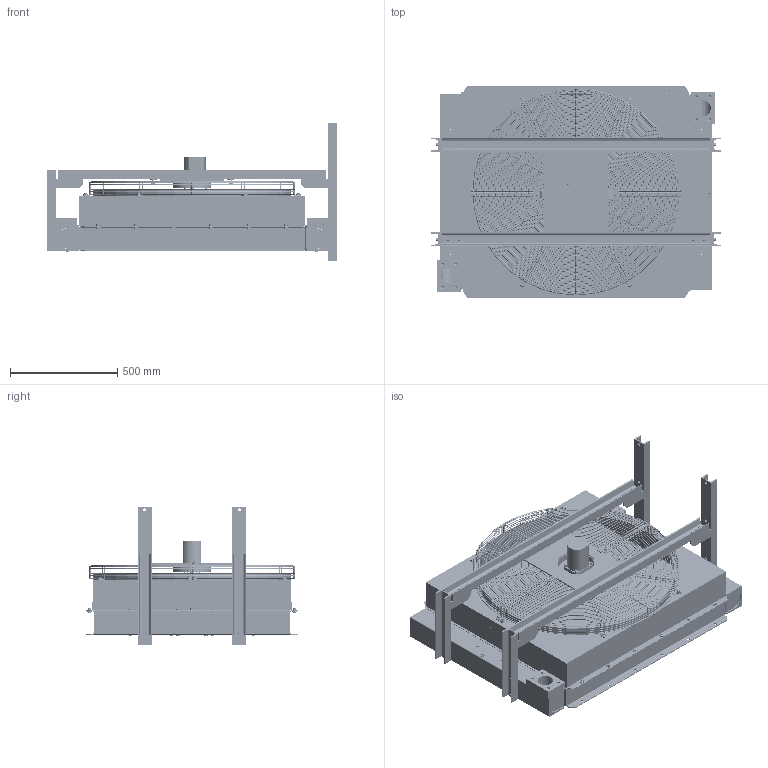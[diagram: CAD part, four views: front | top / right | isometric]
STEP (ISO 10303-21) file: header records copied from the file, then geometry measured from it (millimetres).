
FILE_DESCRIPTION((' '),'1');
FILE_NAME('5210_204_0000.step','2007-09-28 T',(' '),(' '),'STEP Interface v1.0 by CT CoreTechnologie','3D_Evolution v1.0 by CT CoreTechnologie',' ');
FILE_SCHEMA(('AUTOMOTIVE_DESIGN_CC2 { 1 2 10303 214 -1 1 5 2 }'));
Length unit declared in the file: millimetre
Products named in the file (232): 5210_204_0000; Sechskantschraube_ISO_4017-M8x30-8_8-A3B; 603804; 8407_470_0059; 5209_203_0009; 5210_204_5000; Motorplatte_rund; Motorring; Motorplatte; 6030041; 6030042; 6030043; 6030044; 6030045; 6030046; 6030047; 6030048; 603504; 6038281; 6038282; 6038283; 6038284; 6038285; 6038286; 6038287; 6038288; 6038289; 60382810; 60382811; 60382812; 60382813; 60382814; 60382815; 60382816; Oberteil1; Oberteil2; Leiste_lang1; Leiste_lang2; Halter1; Halter2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
Assembly tree (323 placements, depth 5):
  5210_204_0000
    Sechskantschraube_ISO_4017-M8x30-8_8-A3B  x4
    603804  x4
    8407_470_0059
    5209_203_0009  x2
    5210_204_5000
      Motorplatte_rund
      Motorring
      Motorplatte
      6030041
      6030042
      6030043
      6030044
      6030045
      6030046
      6030047
      6030048
      Sechskantschraube_ISO_4017-M8x30-8_8-A3B  x8
      603504  x8
      6038281
      6038282
      6038283
      6038284
      6038285
      6038286
      6038287
      6038288
      6038289
      60382810
      60382811
      60382812
      60382813
      60382814
      60382815
      60382816
      Oberteil1
      Oberteil2
      Leiste_lang1
      Leiste_lang2
      Halter1
      Halter2
      Halter3
      Halter4
      Unterteil1
      Unterteil2
    Sechskantschraube_ISO_4017-M6x25-8_8-A3B1
    Sechskantschraube_ISO_4017-M6x25-8_8-A3B2
    603503  x2
    603803  x2
    8054_011_00001
    8054_011_00002
    Sechskantschraube_ISO_4017-M8x25-8_8-A3B1
    Sechskantschraube_ISO_4017-M8x25-8_8-A3B2
    Sechskantschraube_ISO_4017-M8x25-8_8-A3B3
    Sechskantschraube_ISO_4017-M8x25-8_8-A3B4
    Sechskantschraube_ISO_4017-M8x25-8_8-A3B5
    Sechskantschraube_ISO_4017-M8x25-8_8-A3B6
    Sechskantschraube_ISO_4017-M8x25-8_8-A3B7
    Sechskantschraube_ISO_4017-M8x25-8_8-A3B8
    Sechskantschraube_ISO_4017-M8x25-8_8-A3B9
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Bounding box: 1354 x 986.66 x 646 mm (x, y, z)
Volume: 126559261.5 mm3; surface area: 10207386.3 mm2
Topology: 326 solids, 326 shells, 5719 faces, 13589 edges, 8760 vertices
Faces by surface type: plane 2946, cylinder 1208, torus 762, cone 480, bspline 323
Entity records: 169017 total; most frequent: CARTESIAN_POINT 34944, DIRECTION 19947, ORIENTED_EDGE 18918, EDGE_CURVE 9459, AXIS2_PLACEMENT_3D 7406, VERTEX_POINT 6072, VECTOR 5135, LINE 5135
